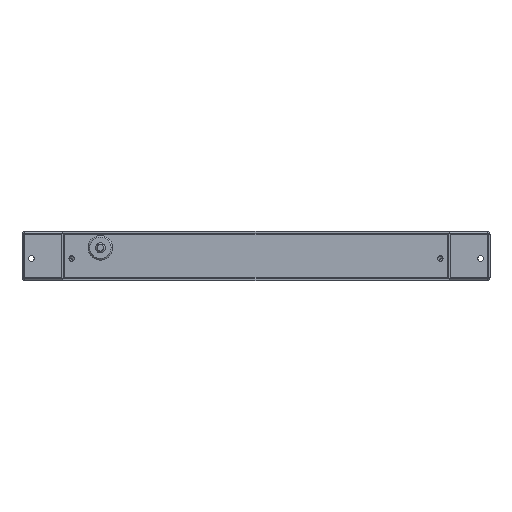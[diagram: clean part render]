
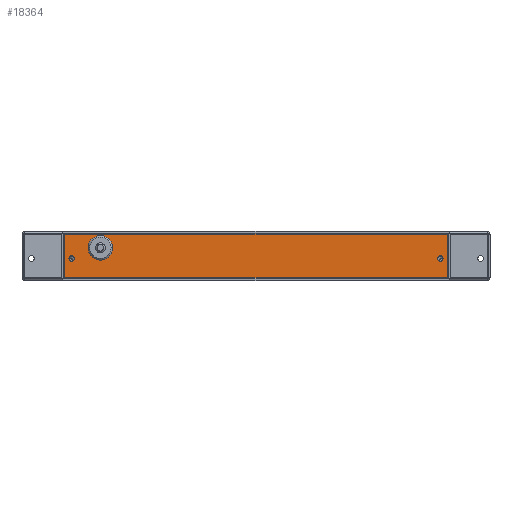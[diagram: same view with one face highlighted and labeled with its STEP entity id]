
A CAD part, front view. The second image highlights one B-rep face of the part: STEP entity #18364.
In plain terms, the highlighted planar face has unit normal (0, -1, 0).
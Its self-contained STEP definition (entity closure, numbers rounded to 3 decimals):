
#1045 = CARTESIAN_POINT ( 'NONE',  ( 233.5, -2., -26.5 ) ) ;
#1060 = DIRECTION ( 'NONE',  ( 0., 0., -1. ) ) ;
#1061 = DIRECTION ( 'NONE',  ( 0., -1., 0. ) ) ;
#1062 = CARTESIAN_POINT ( 'NONE',  ( -190., -2., 10. ) ) ;
#1078 = CIRCLE ( 'NONE', #1080, 15. ) ;
#1080 = AXIS2_PLACEMENT_3D ( 'NONE', #1062, #1061, #1060 ) ;
#1083 = CARTESIAN_POINT ( 'NONE',  ( 225., -2., -6.5 ) ) ;
#1091 = CARTESIAN_POINT ( 'NONE',  ( -190., -2., -5. ) ) ;
#1125 = CARTESIAN_POINT ( 'NONE',  ( -225., -2., 0.5 ) ) ;
#1134 = DIRECTION ( 'NONE',  ( 0., 0., -1. ) ) ;
#1135 = DIRECTION ( 'NONE',  ( 0., -1., 0. ) ) ;
#1142 = AXIS2_PLACEMENT_3D ( 'NONE', #1145, #1135, #1134 ) ;
#1145 = CARTESIAN_POINT ( 'NONE',  ( -190., -2., 10. ) ) ;
#1150 = CIRCLE ( 'NONE', #1142, 15. ) ;
#1157 = DIRECTION ( 'NONE',  ( 0., 0., -1. ) ) ;
#1158 = DIRECTION ( 'NONE',  ( 0., -1., 0. ) ) ;
#1159 = CARTESIAN_POINT ( 'NONE',  ( 225., -2., -3. ) ) ;
#1160 = CIRCLE ( 'NONE', #1177, 3.5 ) ;
#1162 = DIRECTION ( 'NONE',  ( 0., 0., -1. ) ) ;
#1163 = VECTOR ( 'NONE', #1162, 1000. ) ;
#1164 = CARTESIAN_POINT ( 'NONE',  ( 233.5, -2., 0. ) ) ;
#1165 = LINE ( 'NONE', #1164, #1163 ) ;
#1177 = AXIS2_PLACEMENT_3D ( 'NONE', #1159, #1158, #1157 ) ;
#1235 = FACE_OUTER_BOUND ( 'NONE', #18471, .T. ) ;
#1259 = FACE_BOUND ( 'NONE', #18268, .T. ) ;
#1260 = PLANE ( 'NONE',  #1284 ) ;
#1284 = AXIS2_PLACEMENT_3D ( 'NONE', #1368, #1314, #1357 ) ;
#1285 = CARTESIAN_POINT ( 'NONE',  ( -225., -2., -6.5 ) ) ;
#1306 = DIRECTION ( 'NONE',  ( 0., 0., -1. ) ) ;
#1307 = DIRECTION ( 'NONE',  ( 0., -1., 0. ) ) ;
#1308 = CARTESIAN_POINT ( 'NONE',  ( -233.5, -2., 26.5 ) ) ;
#1309 = CIRCLE ( 'NONE', #1416, 3.5 ) ;
#1314 = DIRECTION ( 'NONE',  ( 0., -1., 0. ) ) ;
#1321 = CIRCLE ( 'NONE', #1356, 3.5 ) ;
#1325 = DIRECTION ( 'NONE',  ( 0., 0., 1. ) ) ;
#1326 = VECTOR ( 'NONE', #1325, 1000. ) ;
#1327 = CARTESIAN_POINT ( 'NONE',  ( -233.5, -2., 0. ) ) ;
#1328 = LINE ( 'NONE', #1327, #1326 ) ;
#1334 = CARTESIAN_POINT ( 'NONE',  ( -225., -2., -3. ) ) ;
#1335 = CARTESIAN_POINT ( 'NONE',  ( -233.5, -2., -26.5 ) ) ;
#1337 = DIRECTION ( 'NONE',  ( -1., 0., 0. ) ) ;
#1338 = VECTOR ( 'NONE', #1337, 1000. ) ;
#1343 = DIRECTION ( 'NONE',  ( 0., 0., -1. ) ) ;
#1355 = CARTESIAN_POINT ( 'NONE',  ( 233.5, -2., 26.5 ) ) ;
#1356 = AXIS2_PLACEMENT_3D ( 'NONE', #1334, #1361, #1343 ) ;
#1357 = DIRECTION ( 'NONE',  ( 0., 0., -1. ) ) ;
#1359 = CARTESIAN_POINT ( 'NONE',  ( 0., -2., -26.5 ) ) ;
#1360 = LINE ( 'NONE', #1359, #1338 ) ;
#1361 = DIRECTION ( 'NONE',  ( 0., -1., 0. ) ) ;
#1362 = FACE_BOUND ( 'NONE', #18285, .T. ) ;
#1365 = FACE_BOUND ( 'NONE', #18288, .T. ) ;
#1368 = CARTESIAN_POINT ( 'NONE',  ( 0., -2., 0. ) ) ;
#1399 = CARTESIAN_POINT ( 'NONE',  ( -225., -2., -3. ) ) ;
#1416 = AXIS2_PLACEMENT_3D ( 'NONE', #1399, #1307, #1306 ) ;
#6233 = DIRECTION ( 'NONE',  ( 1., 0., 0. ) ) ;
#6234 = VECTOR ( 'NONE', #6233, 1000. ) ;
#6235 = CARTESIAN_POINT ( 'NONE',  ( 0., -2., 26.5 ) ) ;
#6236 = LINE ( 'NONE', #6235, #6234 ) ;
#6237 = CARTESIAN_POINT ( 'NONE',  ( -190., -2., 25. ) ) ;
#6260 = CARTESIAN_POINT ( 'NONE',  ( 225., -2., 0.5 ) ) ;
#10198 = DIRECTION ( 'NONE',  ( 0., 0., -1. ) ) ;
#10199 = DIRECTION ( 'NONE',  ( 0., -1., 0. ) ) ;
#10200 = CARTESIAN_POINT ( 'NONE',  ( 225., -2., -3. ) ) ;
#10201 = AXIS2_PLACEMENT_3D ( 'NONE', #10200, #10199, #10198 ) ;
#10280 = CIRCLE ( 'NONE', #10201, 3.5 ) ;
#18248 = VERTEX_POINT ( 'NONE', #1091 ) ;
#18251 = VERTEX_POINT ( 'NONE', #1083 ) ;
#18254 = ORIENTED_EDGE ( 'NONE', *, *, #18474, .F. ) ;
#18257 = ORIENTED_EDGE ( 'NONE', *, *, #18292, .F. ) ;
#18261 = ORIENTED_EDGE ( 'NONE', *, *, #22122, .F. ) ;
#18262 = EDGE_CURVE ( 'NONE', #22172, #18248, #1078, .T. ) ;
#18268 = EDGE_LOOP ( 'NONE', ( #18269, #18270 ) ) ;
#18269 = ORIENTED_EDGE ( 'NONE', *, *, #18262, .F. ) ;
#18270 = ORIENTED_EDGE ( 'NONE', *, *, #18302, .F. ) ;
#18285 = EDGE_LOOP ( 'NONE', ( #18261, #18257 ) ) ;
#18286 = VERTEX_POINT ( 'NONE', #1045 ) ;
#18288 = EDGE_LOOP ( 'NONE', ( #18254, #18294 ) ) ;
#18291 = EDGE_CURVE ( 'NONE', #18365, #18286, #1165, .T. ) ;
#18292 = EDGE_CURVE ( 'NONE', #18251, #22181, #1160, .T. ) ;
#18294 = ORIENTED_EDGE ( 'NONE', *, *, #18374, .F. ) ;
#18302 = EDGE_CURVE ( 'NONE', #18248, #22172, #1150, .T. ) ;
#18309 = VERTEX_POINT ( 'NONE', #1125 ) ;
#18312 = ORIENTED_EDGE ( 'NONE', *, *, #18377, .F. ) ;
#18353 = VERTEX_POINT ( 'NONE', #1285 ) ;
#18364 = ADVANCED_FACE ( 'NONE', ( #1235, #1365, #1362, #1259 ), #1260, .T. ) ;
#18365 = VERTEX_POINT ( 'NONE', #1355 ) ;
#18366 = VERTEX_POINT ( 'NONE', #1335 ) ;
#18367 = ORIENTED_EDGE ( 'NONE', *, *, #18372, .F. ) ;
#18371 = ORIENTED_EDGE ( 'NONE', *, *, #22171, .F. ) ;
#18372 = EDGE_CURVE ( 'NONE', #18366, #18475, #1328, .T. ) ;
#18374 = EDGE_CURVE ( 'NONE', #18353, #18309, #1321, .T. ) ;
#18377 = EDGE_CURVE ( 'NONE', #18286, #18366, #1360, .T. ) ;
#18471 = EDGE_LOOP ( 'NONE', ( #18371, #18367, #18312, #22169 ) ) ;
#18474 = EDGE_CURVE ( 'NONE', #18309, #18353, #1309, .T. ) ;
#18475 = VERTEX_POINT ( 'NONE', #1308 ) ;
#22122 = EDGE_CURVE ( 'NONE', #22181, #18251, #10280, .T. ) ;
#22169 = ORIENTED_EDGE ( 'NONE', *, *, #18291, .F. ) ;
#22171 = EDGE_CURVE ( 'NONE', #18475, #18365, #6236, .T. ) ;
#22172 = VERTEX_POINT ( 'NONE', #6237 ) ;
#22181 = VERTEX_POINT ( 'NONE', #6260 ) ;
